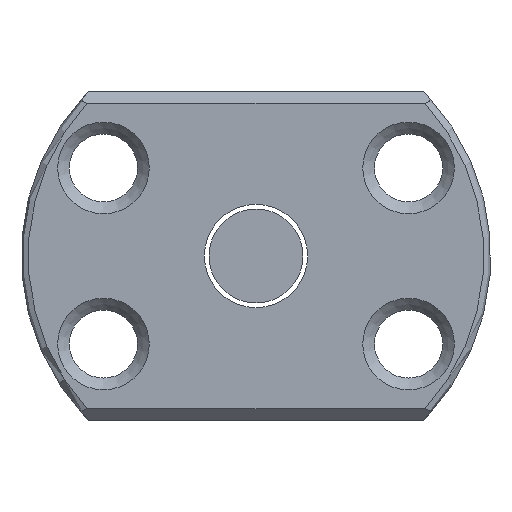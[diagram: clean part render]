
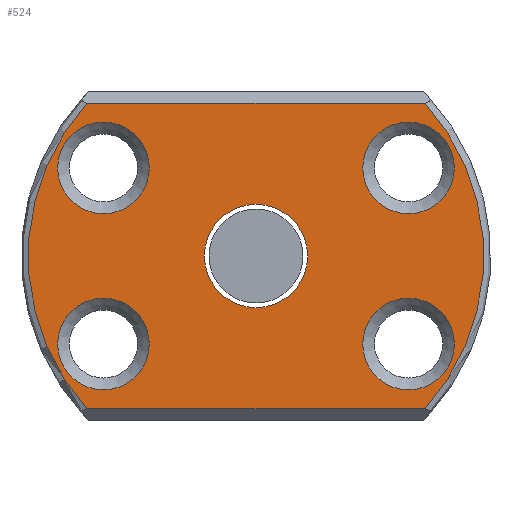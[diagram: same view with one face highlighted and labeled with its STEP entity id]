
A CAD part, left-side view. The second image highlights one B-rep face of the part: STEP entity #524.
In plain terms, the highlighted planar face has unit normal (-1, 0, 0).
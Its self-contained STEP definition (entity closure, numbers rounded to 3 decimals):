
#12 = CARTESIAN_POINT ( 'NONE',  ( -12., 6.495, -3.75 ) ) ;
#18 = DIRECTION ( 'NONE',  ( 1., 0., 0. ) ) ;
#36 = ORIENTED_EDGE ( 'NONE', *, *, #476, .T. ) ;
#56 = EDGE_CURVE ( 'NONE', #208, #208, #80, .T. ) ;
#59 = CARTESIAN_POINT ( 'NONE',  ( -12., -6.495, 3.75 ) ) ;
#80 = CIRCLE ( 'NONE', #204, 1.95 ) ;
#108 = FACE_BOUND ( 'NONE', #369, .T. ) ;
#115 = DIRECTION ( 'NONE',  ( 1., 0., 0. ) ) ;
#130 = ORIENTED_EDGE ( 'NONE', *, *, #56, .T. ) ;
#135 = CARTESIAN_POINT ( 'NONE',  ( -12., 0., 0. ) ) ;
#151 = DIRECTION ( 'NONE',  ( 0., 1., 0. ) ) ;
#153 = EDGE_CURVE ( 'NONE', #603, #603, #830, .T. ) ;
#155 = VECTOR ( 'NONE', #652, 1000. ) ;
#159 = EDGE_CURVE ( 'NONE', #971, #914, #928, .T. ) ;
#183 = CARTESIAN_POINT ( 'NONE',  ( -12., 6.495, 3.75 ) ) ;
#187 = ORIENTED_EDGE ( 'NONE', *, *, #159, .T. ) ;
#202 = CARTESIAN_POINT ( 'NONE',  ( -12., 0., 0. ) ) ;
#204 = AXIS2_PLACEMENT_3D ( 'NONE', #183, #407, #662 ) ;
#208 = VERTEX_POINT ( 'NONE', #856 ) ;
#212 = EDGE_LOOP ( 'NONE', ( #356 ) ) ;
#216 = CARTESIAN_POINT ( 'NONE',  ( -12., -7.2, -6.5 ) ) ;
#221 = EDGE_LOOP ( 'NONE', ( #36 ) ) ;
#223 = VERTEX_POINT ( 'NONE', #365 ) ;
#266 = CARTESIAN_POINT ( 'NONE',  ( -12., -6.495, -3.75 ) ) ;
#275 = CARTESIAN_POINT ( 'NONE',  ( -12., -7.2, 6.5 ) ) ;
#286 = VERTEX_POINT ( 'NONE', #372 ) ;
#294 = VERTEX_POINT ( 'NONE', #614 ) ;
#310 = CIRCLE ( 'NONE', #629, 9.7 ) ;
#335 = FACE_BOUND ( 'NONE', #436, .T. ) ;
#342 = FACE_BOUND ( 'NONE', #521, .T. ) ;
#356 = ORIENTED_EDGE ( 'NONE', *, *, #549, .T. ) ;
#361 = DIRECTION ( 'NONE',  ( 0., -1., 0. ) ) ;
#365 = CARTESIAN_POINT ( 'NONE',  ( -12., 4.545, -3.75 ) ) ;
#369 = EDGE_LOOP ( 'NONE', ( #649 ) ) ;
#372 = CARTESIAN_POINT ( 'NONE',  ( -12., 7.2, -6.5 ) ) ;
#407 = DIRECTION ( 'NONE',  ( 1., 0., 0. ) ) ;
#413 = CIRCLE ( 'NONE', #478, 9.7 ) ;
#436 = EDGE_LOOP ( 'NONE', ( #600 ) ) ;
#450 = CARTESIAN_POINT ( 'NONE',  ( -12., 2.2, 0. ) ) ;
#457 = DIRECTION ( 'NONE',  ( 0., 1., 0. ) ) ;
#472 = DIRECTION ( 'NONE',  ( 0., -1., 0. ) ) ;
#476 = EDGE_CURVE ( 'NONE', #760, #760, #703, .T. ) ;
#477 = AXIS2_PLACEMENT_3D ( 'NONE', #135, #517, #151 ) ;
#478 = AXIS2_PLACEMENT_3D ( 'NONE', #202, #515, #687 ) ;
#509 = DIRECTION ( 'NONE',  ( 0., -1., 0. ) ) ;
#515 = DIRECTION ( 'NONE',  ( -1., 0., 0. ) ) ;
#517 = DIRECTION ( 'NONE',  ( 1., 0., 0. ) ) ;
#521 = EDGE_LOOP ( 'NONE', ( #130 ) ) ;
#522 = CARTESIAN_POINT ( 'NONE',  ( -12., 10., 6.5 ) ) ;
#523 = CARTESIAN_POINT ( 'NONE',  ( -12., -8.445, 3.75 ) ) ;
#524 = ADVANCED_FACE ( 'NONE', ( #335, #820, #653, #342, #108, #667 ), #969, .T. ) ;
#534 = AXIS2_PLACEMENT_3D ( 'NONE', #671, #574, #509 ) ;
#549 = EDGE_CURVE ( 'NONE', #294, #294, #893, .T. ) ;
#560 = EDGE_CURVE ( 'NONE', #914, #286, #413, .T. ) ;
#574 = DIRECTION ( 'NONE',  ( -1., 0., 0. ) ) ;
#580 = DIRECTION ( 'NONE',  ( 1., 0., 0. ) ) ;
#591 = DIRECTION ( 'NONE',  ( 0., -1., 0. ) ) ;
#600 = ORIENTED_EDGE ( 'NONE', *, *, #742, .T. ) ;
#603 = VERTEX_POINT ( 'NONE', #450 ) ;
#604 = DIRECTION ( 'NONE',  ( 0., -1., 0. ) ) ;
#608 = EDGE_LOOP ( 'NONE', ( #668, #723, #187, #1002 ) ) ;
#614 = CARTESIAN_POINT ( 'NONE',  ( -12., -8.445, -3.75 ) ) ;
#617 = VERTEX_POINT ( 'NONE', #216 ) ;
#629 = AXIS2_PLACEMENT_3D ( 'NONE', #692, #1000, #604 ) ;
#630 = EDGE_CURVE ( 'NONE', #617, #971, #310, .T. ) ;
#649 = ORIENTED_EDGE ( 'NONE', *, *, #153, .T. ) ;
#652 = DIRECTION ( 'NONE',  ( 0., -1., 0. ) ) ;
#653 = FACE_BOUND ( 'NONE', #221, .T. ) ;
#662 = DIRECTION ( 'NONE',  ( 0., -1., 0. ) ) ;
#667 = FACE_OUTER_BOUND ( 'NONE', #608, .T. ) ;
#668 = ORIENTED_EDGE ( 'NONE', *, *, #888, .T. ) ;
#671 = CARTESIAN_POINT ( 'NONE',  ( -12., 10., 0. ) ) ;
#684 = VECTOR ( 'NONE', #457, 1000. ) ;
#687 = DIRECTION ( 'NONE',  ( 0., -1., 0. ) ) ;
#692 = CARTESIAN_POINT ( 'NONE',  ( -12., 0., 0. ) ) ;
#703 = CIRCLE ( 'NONE', #878, 1.95 ) ;
#723 = ORIENTED_EDGE ( 'NONE', *, *, #630, .T. ) ;
#725 = CARTESIAN_POINT ( 'NONE',  ( -12., 10., -6.5 ) ) ;
#742 = EDGE_CURVE ( 'NONE', #223, #223, #747, .T. ) ;
#747 = CIRCLE ( 'NONE', #959, 1.95 ) ;
#760 = VERTEX_POINT ( 'NONE', #523 ) ;
#819 = LINE ( 'NONE', #725, #155 ) ;
#820 = FACE_BOUND ( 'NONE', #212, .T. ) ;
#830 = CIRCLE ( 'NONE', #477, 2.2 ) ;
#856 = CARTESIAN_POINT ( 'NONE',  ( -12., 4.545, 3.75 ) ) ;
#878 = AXIS2_PLACEMENT_3D ( 'NONE', #59, #580, #361 ) ;
#888 = EDGE_CURVE ( 'NONE', #286, #617, #819, .T. ) ;
#893 = CIRCLE ( 'NONE', #931, 1.95 ) ;
#900 = CARTESIAN_POINT ( 'NONE',  ( -12., 7.2, 6.5 ) ) ;
#914 = VERTEX_POINT ( 'NONE', #900 ) ;
#928 = LINE ( 'NONE', #522, #684 ) ;
#931 = AXIS2_PLACEMENT_3D ( 'NONE', #266, #115, #591 ) ;
#959 = AXIS2_PLACEMENT_3D ( 'NONE', #12, #18, #472 ) ;
#969 = PLANE ( 'NONE',  #534 ) ;
#971 = VERTEX_POINT ( 'NONE', #275 ) ;
#1000 = DIRECTION ( 'NONE',  ( -1., 0., 0. ) ) ;
#1002 = ORIENTED_EDGE ( 'NONE', *, *, #560, .T. ) ;
